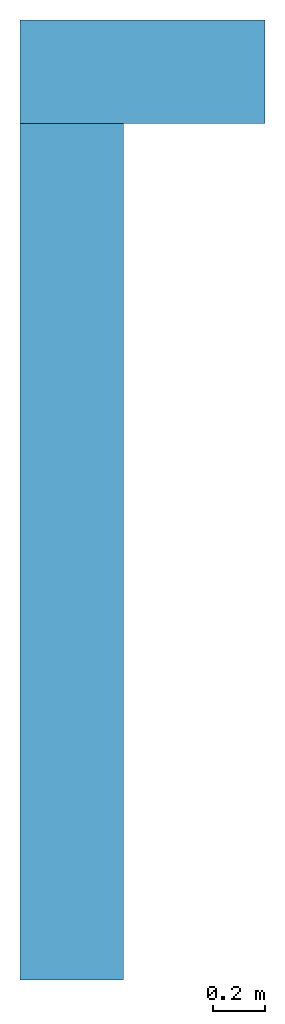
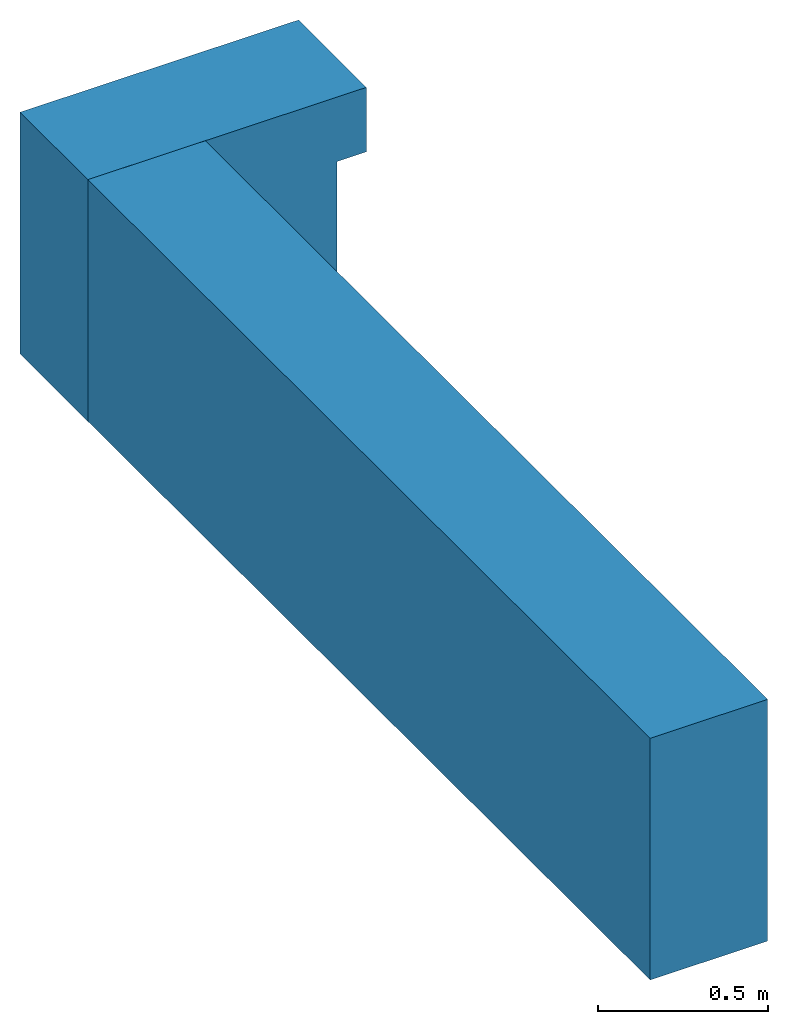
# One storey: 2 walls.
"""IFC2X3 building model written with IfcOpenShell, lengths in millimetres."""

from ifc_helpers import new_model, entity, si_unit, converted_unit, derived_unit, direction, frame, origin, origin_with_axes, place, context, subcontext, project, spatial, faceted_brep, material, layer, layer_set, type_object, element, save


model = new_model("IFC2X3")

# Units and contexts
model_context = context("Model", 3, precision=0.01, world=origin(), true_north=direction((6.12303176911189e-17, 1.0)))
plan_context = context("Plan", 3, precision=1e-05, world=origin_with_axes())
body_context = subcontext(model_context, "Body", "Model", "MODEL_VIEW")
ifc_project = project(units=[converted_unit("PLANEANGLEUNIT", "DEGREE", entity("IfcPositiveLengthMeasure", 0.0174532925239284), si_unit("PLANEANGLEUNIT", "RADIAN"), dimensions=[0, 0, 0, 0, 0, 0, 0]), si_unit("AREAUNIT", "SQUARE_METRE"), si_unit("LENGTHUNIT", "METRE", prefix="MILLI"), si_unit("MASSUNIT", "GRAM", prefix="KILO"), si_unit("POWERUNIT", "WATT"), si_unit("PRESSUREUNIT", "PASCAL"), si_unit("FORCEUNIT", "NEWTON", prefix="KILO"), si_unit("ELECTRICVOLTAGEUNIT", "VOLT"), si_unit("ELECTRICCURRENTUNIT", "AMPERE"), si_unit("THERMODYNAMICTEMPERATUREUNIT", "DEGREE_CELSIUS"), si_unit("TIMEUNIT", "SECOND"), si_unit("VOLUMEUNIT", "CUBIC_METRE"), derived_unit("LINEARVELOCITYUNIT", [(si_unit("LENGTHUNIT", "METRE"), 1), (si_unit("TIMEUNIT", "SECOND"), -1)]), derived_unit("VOLUMETRICFLOWRATEUNIT", [(si_unit("VOLUMEUNIT", "CUBIC_METRE"), 1), (si_unit("TIMEUNIT", "SECOND"), -1)]), derived_unit("THERMALTRANSMITTANCEUNIT", [(si_unit("POWERUNIT", "WATT"), 1), (si_unit("THERMODYNAMICTEMPERATUREUNIT", "KELVIN"), -1), (si_unit("AREAUNIT", "SQUARE_METRE"), -1)]), derived_unit("SOUNDPRESSUREUNIT", [(si_unit("PRESSUREUNIT", "PASCAL"), 1)])], contexts=[model_context, plan_context])

# Site, building, storey
site_placement = place(None, frame((2314154.5009392, 1029894.10887124, 0.0), z_axis=(0.0, 0.0, 1.0), x_axis=(1.0, 0.0, 0.0)))
site = spatial("IfcSite", under=ifc_project, at=site_placement, Name="Default", CompositionType="ELEMENT")
building_placement = place(site_placement, origin_with_axes())
building = spatial("IfcBuilding", under=site, at=building_placement, CompositionType="ELEMENT")
storey_placement = place(building_placement, frame((0.0, 0.0, 6250.0), z_axis=(0.0, 0.0, 1.0), x_axis=(1.0, 0.0, 0.0)))
storey = spatial("IfcBuildingStorey", under=building, at=storey_placement, Name="U01 Hovedetasje", CompositionType="ELEMENT", Elevation=6250.0)

# Walls
ifc_material_1 = material(Name="_NSW Isolasjon")
ifc_layer_1 = layer(ifc_material_1, 150.0)
ifc_material_2 = material(Name="_NSW Betong")
ifc_layer_2 = layer(ifc_material_2, 250.0)
ifc_layer_set = layer_set([ifc_layer_1, ifc_layer_2], Name="Basic Wall:NSW Utvendig - 250mm")
wall_type = type_object("IfcWallType", Name="Basic Wall:NSW Utvendig - 250mm", PredefinedType="STANDARD", material=ifc_layer_set)
wall_1_placement = place(storey_placement, frame((102962.085595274, -39019.4514097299, 1270.0), z_axis=(0.0, 0.0, 1.0), x_axis=(0.0, -1.0, 0.0)))
element("IfcWall", 1, at=wall_1_placement, inside=storey, type_object=wall_type, Name="Basic Wall:NSW Utvendig - 250mm", ObjectType="Basic Wall:NSW Utvendig - 250mm", context=body_context, shape_type="Brep", body=[
    faceted_brep([(0.0, 200.000000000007, 800.0), (3315.93962015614, 200.000000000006, 800.0), (3315.93962015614, 200.000000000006, 1670.0), (0.0, 200.000000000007, 1670.0), (0.0, -200.000000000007, 800.0), (0.0, -200.000000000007, 1670.0), (3315.93962015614, -200.000000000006, 1670.0), (3315.93962015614, -200.000000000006, 800.0)], [[[0, 1, 2, 3]], [[4, 0, 3, 5]], [[6, 7, 4, 5]], [[2, 6, 5, 3]], [[7, 6, 2, 1]], [[1, 0, 4, 7]]], orient=[[False], [False], [False], [False], [False], [False]]),
])
wall_2_placement = place(storey_placement, frame((103710.33394735, -38819.4514097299, 1270.0), z_axis=(0.0, 0.0, 1.0), x_axis=(-1.0, 0.0, 0.0)))
element("IfcWall", 2, at=wall_2_placement, inside=storey, type_object=wall_type, Name="Basic Wall:NSW Utvendig - 250mm", ObjectType="Basic Wall:NSW Utvendig - 250mm", context=body_context, shape_type="Brep", body=[
    faceted_brep([(948.248352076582, -200.0, 800.0), (100.0, -200.0, 800.0), (100.0, -200.0, 1438.0), (0.0, -200.0, 1438.0), (0.0, -200.0, 1670.0), (948.248352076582, -200.0, 1670.0), (100.0, 200.0, 800.0), (948.248352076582, 200.0, 800.0), (948.248352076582, 200.0, 1670.0), (0.0, 200.0, 1670.0), (0.0, 200.0, 1438.0), (100.0, 200.0, 1438.0), (548.248352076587, 200.0, 1670.0)], [[[0, 1, 2, 3, 4, 5]], [[6, 7, 8, 9, 10, 11]], [[9, 12, 8, 5, 4]], [[7, 0, 5, 8]], [[10, 9, 4, 3]], [[2, 11, 10, 3]], [[1, 6, 11, 2]], [[7, 6, 1, 0]]], orient=[[False], [False], [False], [False], [False], [False], [False], [False]]),
])

save(model, "model.ifc")
